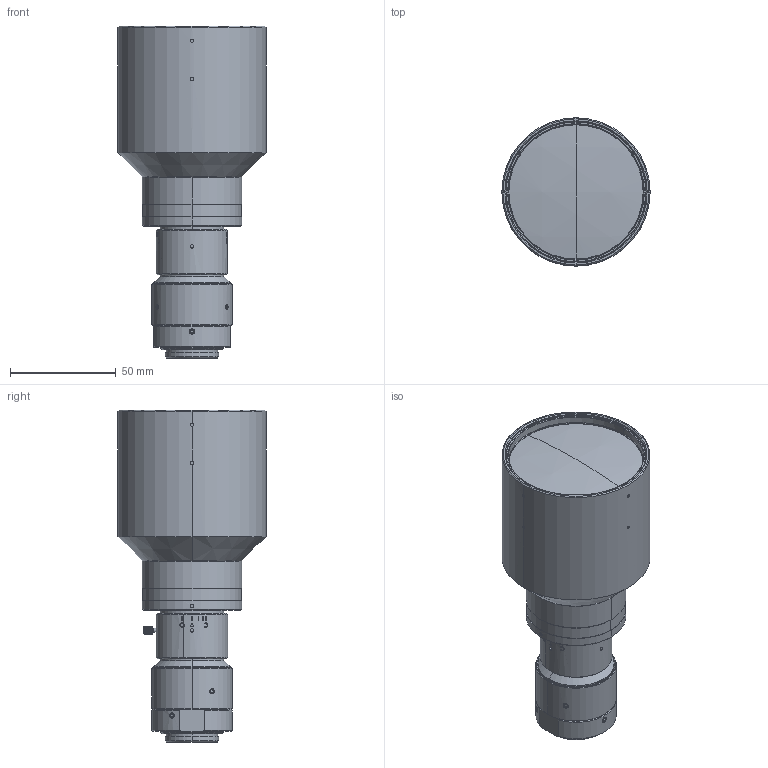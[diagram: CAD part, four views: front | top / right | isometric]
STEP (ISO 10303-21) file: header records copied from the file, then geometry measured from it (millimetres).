
FILE_DESCRIPTION (( 'STEP AP203' ), '1' );
FILE_NAME ('A23158_MML033-SR130VI-18C.STEP', '2022-10-18T05:41:49', ( '' ), ( '' ), 'SwSTEP 2.0', 'SolidWorks 2020', '' );
FILE_SCHEMA (( 'CONFIG_CONTROL_DESIGN' ));
Length unit declared in the file: millimetre
Products named in the file (1): A23158_MML033-SR130VI-18C
Bounding box: 70 x 70 x 156.91 mm (x, y, z)
Volume: 339275.6 mm3; surface area: 36317.8 mm2
Topology: 1 solids, 1 shells, 581 faces, 1497 edges, 975 vertices
Faces by surface type: cylinder 222, plane 175, cone 116, bspline 66, sphere 2
Entity records: 26355 total; most frequent: CARTESIAN_POINT 13171, ORIENTED_EDGE 2994, DIRECTION 2293, EDGE_CURVE 1497, VERTEX_POINT 975, AXIS2_PLACEMENT_3D 866, EDGE_LOOP 638, ADVANCED_FACE 581
